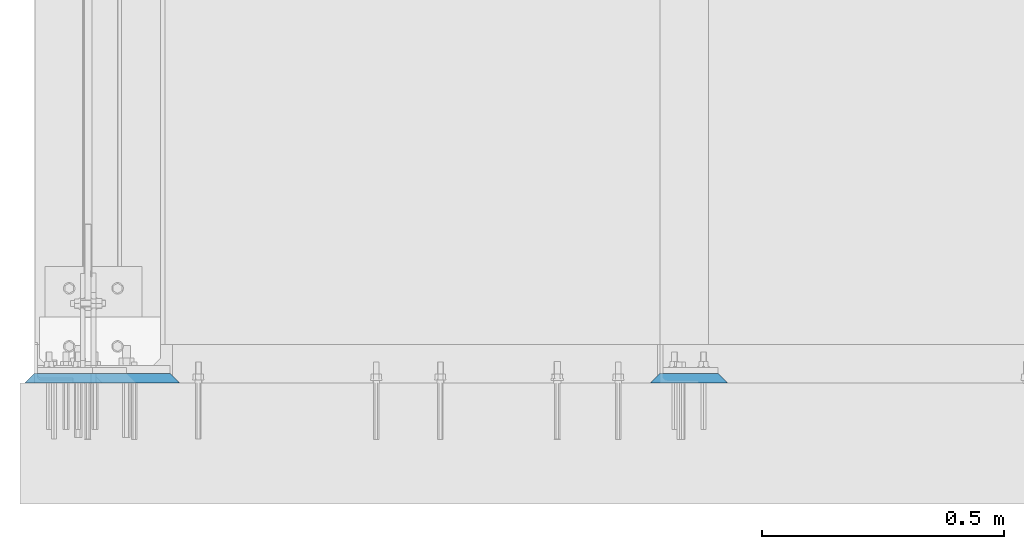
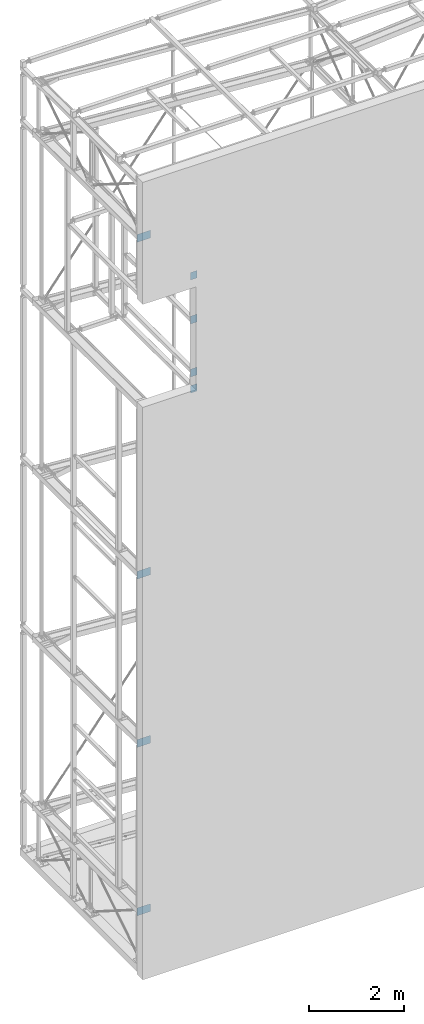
# One storey, part 99 of 271: 8 plates, 8 elements without a shape of their own.
"""IFC2X3 building model written with IfcOpenShell, lengths in millimetres."""

from ifc_helpers import new_model, si_unit, frame, origin_with_axes, place, context, subcontext, project, spatial, polyline, outline, extrude, boolean, material, type_object, element, aggregate, save


model = new_model("IFC2X3")

# Units and contexts
model_context = context("Model", 3, precision=1e-05, world=origin_with_axes())
body_context = subcontext(model_context, "Body", "Model", "MODEL_VIEW")
ifc_project = project(units=[si_unit("LENGTHUNIT", "METRE", prefix="MILLI"), si_unit("AREAUNIT", "SQUARE_METRE"), si_unit("VOLUMEUNIT", "CUBIC_METRE"), si_unit("MASSUNIT", "GRAM", prefix="KILO"), si_unit("TIMEUNIT", "SECOND"), si_unit("PLANEANGLEUNIT", "RADIAN"), si_unit("SOLIDANGLEUNIT", "STERADIAN"), si_unit("THERMODYNAMICTEMPERATUREUNIT", "DEGREE_CELSIUS"), si_unit("LUMINOUSINTENSITYUNIT", "LUMEN")], contexts=[model_context])

# Site, building, storey
site_placement = place(None, origin_with_axes())
site = spatial("IfcSite", under=ifc_project, at=site_placement, Name="Undefined", CompositionType="ELEMENT")
building_placement = place(site_placement, origin_with_axes())
building = spatial("IfcBuilding", under=site, at=building_placement, Name="Undefined", CompositionType="ELEMENT")
storey_placement = place(building_placement, origin_with_axes())
storey = spatial("IfcBuildingStorey", under=building, at=storey_placement, Name="Undefined", CompositionType="ELEMENT", Elevation=0.0)

# Assembly, plate
assembly_1_placement = place(storey_placement, origin_with_axes())
assembly_1 = element("IfcElementAssembly", 1, at=assembly_1_placement, inside=storey, Name="GROUT", AssemblyPlace="NOTDEFINED", PredefinedType="NOTDEFINED")
ifc_material = material(Name="Undefined/GROUT")
plate_type_1 = type_object("IfcPlateType", Name="BL20*160", PredefinedType="NOTDEFINED")
plate_1_placement = place(assembly_1_placement, frame((1420.37568709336, 9.05211980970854, 14411.8499999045), z_axis=(0.0, 1.0, 0.0), x_axis=(0.0, 0.0, -1.0)))
plate_1 = element("IfcPlate", 2, at=plate_1_placement, type_object=plate_type_1, material=ifc_material, Name="GROUT", ObjectType="BL20*160", context=body_context, shape_type="CSG", body=[
    boolean("DIFFERENCE", boolean("DIFFERENCE", boolean("DIFFERENCE", boolean("DIFFERENCE", extrude(outline(polyline([(0.0, 0.0), (190.0, 0.0), (190.0, 160.0), (0.0, 160.0), (0.0, 0.0)])), frame((0.0, 0.0, -10.0), z_axis=(0.0, 0.0, 1.0), x_axis=(1.0, 0.0, 0.0)), (0.0, 0.0, 1.0), 20.0), extrude(outline(polyline([(0.0, 0.0), (44.2842712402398, -1.45519152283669e-11), (22.1421356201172, 22.1421356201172), (0.0, 0.0)])), frame((-5.65685424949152, 168.0, -15.6568542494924), z_axis=(0.0, -1.0, 0.0), x_axis=(0.707106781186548, 0.0, 0.707106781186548)), (0.0, 0.0, 1.0), 176.0)), extrude(outline(polyline([(0.0, 0.0), (42.2842712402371, -1.54614099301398e-11), (21.1421356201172, 21.1421356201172), (0.0, 0.0)])), frame((197.0, 164.949747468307, -14.9497474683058), z_axis=(-1.0, 0.0, 1.38777878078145e-17), x_axis=(0.0, -0.707106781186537, 0.707106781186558)), (0.0, 0.0, 1.0), 204.0)), extrude(outline(polyline([(0.0, 0.0), (40.2842712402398, -1.45519152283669e-11), (20.1421356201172, 20.1421356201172), (0.0, 0.0)])), frame((194.24264068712, -6.0, -14.2426406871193), z_axis=(0.0, 1.0, 0.0), x_axis=(-0.707106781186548, 0.0, 0.707106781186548)), (0.0, 0.0, 1.0), 172.0)), extrude(outline(polyline([(0.0, 0.0), (38.284271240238, -1.45519152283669e-11), (19.1421356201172, 19.1421356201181), (0.0, 0.0)])), frame((-5.0, -3.53553390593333, -13.5355339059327), z_axis=(1.0, 0.0, 0.0), x_axis=(0.0, 0.707106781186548, 0.707106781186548)), (0.0, 0.0, 1.0), 200.0)),
])
aggregate(assembly_1, [plate_1])

assembly_2_placement = place(storey_placement, origin_with_axes())
assembly_2 = element("IfcElementAssembly", 3, at=assembly_2_placement, inside=storey, Name="GROUT", AssemblyPlace="NOTDEFINED", PredefinedType="NOTDEFINED")
plate_2_placement = place(assembly_2_placement, frame((1420.37568709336, 9.05211980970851, 14834.3499999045), z_axis=(0.0, 1.0, 0.0), x_axis=(0.0, 0.0, -1.0)))
plate_2 = element("IfcPlate", 4, at=plate_2_placement, type_object=plate_type_1, material=ifc_material, Name="GROUT", ObjectType="BL20*160", context=body_context, shape_type="CSG", body=[
    boolean("DIFFERENCE", boolean("DIFFERENCE", boolean("DIFFERENCE", boolean("DIFFERENCE", extrude(outline(polyline([(0.0, 0.0), (200.0, 0.0), (200.0, 160.0), (0.0, 160.0), (0.0, 0.0)])), frame((0.0, 0.0, -10.0), z_axis=(0.0, 0.0, 1.0), x_axis=(1.0, 0.0, 0.0)), (0.0, 0.0, 1.0), 20.0), extrude(outline(polyline([(0.0, 0.0), (44.2842712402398, -1.45519152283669e-11), (22.1421356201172, 22.1421356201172), (0.0, 0.0)])), frame((-5.65685424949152, 168.0, -15.6568542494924), z_axis=(0.0, -1.0, 0.0), x_axis=(0.707106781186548, 0.0, 0.707106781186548)), (0.0, 0.0, 1.0), 176.0)), extrude(outline(polyline([(0.0, 0.0), (42.2842712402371, -1.54614099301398e-11), (21.1421356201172, 21.1421356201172), (0.0, 0.0)])), frame((207.0, 164.949747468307, -14.9497474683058), z_axis=(-1.0, 0.0, 1.38777878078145e-17), x_axis=(0.0, -0.707106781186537, 0.707106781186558)), (0.0, 0.0, 1.0), 214.0)), extrude(outline(polyline([(0.0, 0.0), (40.2842712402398, -1.45519152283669e-11), (20.1421356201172, 20.1421356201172), (0.0, 0.0)])), frame((204.24264068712, -6.0, -14.2426406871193), z_axis=(0.0, 1.0, 0.0), x_axis=(-0.707106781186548, 0.0, 0.707106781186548)), (0.0, 0.0, 1.0), 172.0)), extrude(outline(polyline([(0.0, 0.0), (38.284271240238, -1.45519152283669e-11), (19.1421356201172, 19.1421356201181), (0.0, 0.0)])), frame((-5.0, -3.53553390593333, -13.5355339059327), z_axis=(1.0, 0.0, 0.0), x_axis=(0.0, 0.707106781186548, 0.707106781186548)), (0.0, 0.0, 1.0), 210.0)),
])
aggregate(assembly_2, [plate_2])

assembly_3_placement = place(storey_placement, origin_with_axes())
assembly_3 = element("IfcElementAssembly", 5, at=assembly_3_placement, inside=storey, Name="GROUT", AssemblyPlace="NOTDEFINED", PredefinedType="NOTDEFINED")
plate_3_placement = place(assembly_3_placement, frame((1260.37568709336, 9.05211980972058, 15994.3499999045), z_axis=(0.0, 1.0, 0.0), x_axis=(0.0, 0.0, 1.0)))
plate_3 = element("IfcPlate", 6, at=plate_3_placement, type_object=plate_type_1, material=ifc_material, Name="GROUT", ObjectType="BL20*160", context=body_context, shape_type="CSG", body=[
    boolean("DIFFERENCE", boolean("DIFFERENCE", boolean("DIFFERENCE", boolean("DIFFERENCE", extrude(outline(polyline([(0.0, 0.0), (200.0, 0.0), (200.0, 160.0), (0.0, 160.0), (0.0, 0.0)])), frame((0.0, 0.0, -10.0), z_axis=(0.0, 0.0, 1.0), x_axis=(1.0, 0.0, 0.0)), (0.0, 0.0, 1.0), 20.0), extrude(outline(polyline([(0.0, 0.0), (44.2842712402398, -1.45519152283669e-11), (22.1421356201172, 22.1421356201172), (0.0, 0.0)])), frame((-5.65685424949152, 168.0, -15.6568542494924), z_axis=(0.0, -1.0, 0.0), x_axis=(0.707106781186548, 0.0, 0.707106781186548)), (0.0, 0.0, 1.0), 176.0)), extrude(outline(polyline([(0.0, 0.0), (42.2842712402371, -1.54614099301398e-11), (21.1421356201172, 21.1421356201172), (0.0, 0.0)])), frame((207.0, 164.949747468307, -14.9497474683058), z_axis=(-1.0, 0.0, 1.38777878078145e-17), x_axis=(0.0, -0.707106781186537, 0.707106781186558)), (0.0, 0.0, 1.0), 214.0)), extrude(outline(polyline([(0.0, 0.0), (40.2842712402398, -1.45519152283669e-11), (20.1421356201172, 20.1421356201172), (0.0, 0.0)])), frame((204.24264068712, -6.0, -14.2426406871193), z_axis=(0.0, 1.0, 0.0), x_axis=(-0.707106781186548, 0.0, 0.707106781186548)), (0.0, 0.0, 1.0), 172.0)), extrude(outline(polyline([(0.0, 0.0), (38.284271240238, -1.45519152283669e-11), (19.1421356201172, 19.1421356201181), (0.0, 0.0)])), frame((-5.0, -3.53553390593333, -13.5355339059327), z_axis=(1.0, 0.0, 0.0), x_axis=(0.0, 0.707106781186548, 0.707106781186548)), (0.0, 0.0, 1.0), 210.0)),
])
aggregate(assembly_3, [plate_3])

assembly_4_placement = place(storey_placement, origin_with_axes())
assembly_4 = element("IfcElementAssembly", 7, at=assembly_4_placement, inside=storey, Name="GROUT", AssemblyPlace="NOTDEFINED", PredefinedType="NOTDEFINED")
plate_4_placement = place(assembly_4_placement, frame((1260.37568709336, 9.05211980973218, 17124.3499999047), z_axis=(0.0, 1.0, 0.0), x_axis=(0.0, 0.0, 1.0)))
plate_4 = element("IfcPlate", 8, at=plate_4_placement, type_object=plate_type_1, material=ifc_material, Name="GROUT", ObjectType="BL20*160", context=body_context, shape_type="CSG", body=[
    boolean("DIFFERENCE", boolean("DIFFERENCE", boolean("DIFFERENCE", boolean("DIFFERENCE", extrude(outline(polyline([(0.0, 0.0), (190.0, 0.0), (190.0, 160.0), (0.0, 160.0), (0.0, 0.0)])), frame((0.0, 0.0, -10.0), z_axis=(0.0, 0.0, 1.0), x_axis=(1.0, 0.0, 0.0)), (0.0, 0.0, 1.0), 20.0), extrude(outline(polyline([(0.0, 0.0), (44.2842712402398, -1.45519152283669e-11), (22.1421356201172, 22.1421356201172), (0.0, 0.0)])), frame((-5.65685424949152, 168.0, -15.6568542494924), z_axis=(0.0, -1.0, 0.0), x_axis=(0.707106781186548, 0.0, 0.707106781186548)), (0.0, 0.0, 1.0), 176.0)), extrude(outline(polyline([(0.0, 0.0), (42.2842712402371, -1.54614099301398e-11), (21.1421356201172, 21.1421356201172), (0.0, 0.0)])), frame((197.0, 164.949747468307, -14.9497474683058), z_axis=(-1.0, 0.0, 1.38777878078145e-17), x_axis=(0.0, -0.707106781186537, 0.707106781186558)), (0.0, 0.0, 1.0), 204.0)), extrude(outline(polyline([(0.0, 0.0), (40.2842712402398, -1.45519152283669e-11), (20.1421356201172, 20.1421356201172), (0.0, 0.0)])), frame((194.24264068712, -6.0, -14.2426406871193), z_axis=(0.0, 1.0, 0.0), x_axis=(-0.707106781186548, 0.0, 0.707106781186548)), (0.0, 0.0, 1.0), 172.0)), extrude(outline(polyline([(0.0, 0.0), (38.284271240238, -1.45519152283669e-11), (19.1421356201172, 19.1421356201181), (0.0, 0.0)])), frame((-5.0, -3.53553390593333, -13.5355339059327), z_axis=(1.0, 0.0, 0.0), x_axis=(0.0, 0.707106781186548, 0.707106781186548)), (0.0, 0.0, 1.0), 200.0)),
])
aggregate(assembly_4, [plate_4])

assembly_5_placement = place(storey_placement, origin_with_axes())
assembly_5 = element("IfcElementAssembly", 9, at=assembly_5_placement, inside=storey, Name="GROUT", AssemblyPlace="NOTDEFINED", PredefinedType="NOTDEFINED")
plate_type_2 = type_object("IfcPlateType", Name="BL20*200", PredefinedType="NOTDEFINED")
plate_5_placement = place(assembly_5_placement, frame((-31.6243129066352, 9.32498425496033, 1464.34999990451), z_axis=(0.0, 1.0, 0.0), x_axis=(1.0, 0.0, 0.0)))
plate_5 = element("IfcPlate", 10, at=plate_5_placement, type_object=plate_type_2, material=ifc_material, Name="GROUT", ObjectType="BL20*200", context=body_context, shape_type="CSG", body=[
    boolean("DIFFERENCE", boolean("DIFFERENCE", boolean("DIFFERENCE", boolean("DIFFERENCE", extrude(outline(polyline([(0.0, 0.0), (320.0, 0.0), (320.0, 200.0), (0.0, 200.0), (0.0, 0.0)])), frame((0.0, 0.0, -10.0), z_axis=(0.0, 0.0, 1.0), x_axis=(1.0, 0.0, 0.0)), (0.0, 0.0, 1.0), 20.0), extrude(outline(polyline([(0.0, 0.0), (44.2842712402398, -1.45519152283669e-11), (22.1421356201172, 22.1421356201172), (0.0, 0.0)])), frame((-5.65685424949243, 208.0, -15.6568542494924), z_axis=(0.0, -1.0, 0.0), x_axis=(0.707106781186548, 0.0, 0.707106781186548)), (0.0, 0.0, 1.0), 216.0)), extrude(outline(polyline([(0.0, 0.0), (42.2842712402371, -1.54614099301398e-11), (21.1421356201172, 21.1421356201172), (0.0, 0.0)])), frame((327.0, 204.949747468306, -14.9497474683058), z_axis=(-1.0, 0.0, 1.38777878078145e-17), x_axis=(0.0, -0.707106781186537, 0.707106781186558)), (0.0, 0.0, 1.0), 334.0)), extrude(outline(polyline([(0.0, 0.0), (40.2842712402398, -1.45519152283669e-11), (20.1421356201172, 20.1421356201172), (0.0, 0.0)])), frame((324.24264068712, -6.0, -14.2426406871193), z_axis=(0.0, 1.0, 0.0), x_axis=(-0.707106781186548, 0.0, 0.707106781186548)), (0.0, 0.0, 1.0), 212.0)), extrude(outline(polyline([(0.0, 0.0), (38.284271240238, -1.45519152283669e-11), (19.1421356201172, 19.1421356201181), (0.0, 0.0)])), frame((-5.0, -3.53553390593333, -13.5355339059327), z_axis=(1.0, 0.0, 0.0), x_axis=(0.0, 0.707106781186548, 0.707106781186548)), (0.0, 0.0, 1.0), 330.0)),
])
aggregate(assembly_5, [plate_5])

assembly_6_placement = place(storey_placement, origin_with_axes())
assembly_6 = element("IfcElementAssembly", 11, at=assembly_6_placement, inside=storey, Name="GROUT", AssemblyPlace="NOTDEFINED", PredefinedType="NOTDEFINED")
plate_6_placement = place(assembly_6_placement, frame((-31.6243129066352, 9.32498425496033, 5784.34999990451), z_axis=(0.0, 1.0, 0.0), x_axis=(1.0, 0.0, 0.0)))
plate_6 = element("IfcPlate", 12, at=plate_6_placement, type_object=plate_type_2, material=ifc_material, Name="GROUT", ObjectType="BL20*200", context=body_context, shape_type="CSG", body=[
    boolean("DIFFERENCE", boolean("DIFFERENCE", boolean("DIFFERENCE", boolean("DIFFERENCE", extrude(outline(polyline([(0.0, 0.0), (320.0, 0.0), (320.0, 200.0), (0.0, 200.0), (0.0, 0.0)])), frame((0.0, 0.0, -10.0), z_axis=(0.0, 0.0, 1.0), x_axis=(1.0, 0.0, 0.0)), (0.0, 0.0, 1.0), 20.0), extrude(outline(polyline([(0.0, 0.0), (44.2842712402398, -1.45519152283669e-11), (22.1421356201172, 22.1421356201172), (0.0, 0.0)])), frame((-5.65685424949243, 208.0, -15.6568542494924), z_axis=(0.0, -1.0, 0.0), x_axis=(0.707106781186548, 0.0, 0.707106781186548)), (0.0, 0.0, 1.0), 216.0)), extrude(outline(polyline([(0.0, 0.0), (42.2842712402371, -1.54614099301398e-11), (21.1421356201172, 21.1421356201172), (0.0, 0.0)])), frame((327.0, 204.949747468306, -14.9497474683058), z_axis=(-1.0, 0.0, 1.38777878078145e-17), x_axis=(0.0, -0.707106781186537, 0.707106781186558)), (0.0, 0.0, 1.0), 334.0)), extrude(outline(polyline([(0.0, 0.0), (40.2842712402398, -1.45519152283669e-11), (20.1421356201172, 20.1421356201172), (0.0, 0.0)])), frame((324.24264068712, -6.0, -14.2426406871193), z_axis=(0.0, 1.0, 0.0), x_axis=(-0.707106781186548, 0.0, 0.707106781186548)), (0.0, 0.0, 1.0), 212.0)), extrude(outline(polyline([(0.0, 0.0), (38.284271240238, -1.45519152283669e-11), (19.1421356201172, 19.1421356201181), (0.0, 0.0)])), frame((-5.0, -3.53553390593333, -13.5355339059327), z_axis=(1.0, 0.0, 0.0), x_axis=(0.0, 0.707106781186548, 0.707106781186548)), (0.0, 0.0, 1.0), 330.0)),
])
aggregate(assembly_6, [plate_6])

assembly_7_placement = place(storey_placement, origin_with_axes())
assembly_7 = element("IfcElementAssembly", 13, at=assembly_7_placement, inside=storey, Name="GROUT", AssemblyPlace="NOTDEFINED", PredefinedType="NOTDEFINED")
plate_7_placement = place(assembly_7_placement, frame((-31.6243129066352, 9.32498425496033, 10104.3499999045), z_axis=(0.0, 1.0, 0.0), x_axis=(1.0, 0.0, 0.0)))
plate_7 = element("IfcPlate", 14, at=plate_7_placement, type_object=plate_type_2, material=ifc_material, Name="GROUT", ObjectType="BL20*200", context=body_context, shape_type="CSG", body=[
    boolean("DIFFERENCE", boolean("DIFFERENCE", boolean("DIFFERENCE", boolean("DIFFERENCE", extrude(outline(polyline([(0.0, 0.0), (320.0, 0.0), (320.0, 200.0), (0.0, 200.0), (0.0, 0.0)])), frame((0.0, 0.0, -10.0), z_axis=(0.0, 0.0, 1.0), x_axis=(1.0, 0.0, 0.0)), (0.0, 0.0, 1.0), 20.0), extrude(outline(polyline([(0.0, 0.0), (44.2842712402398, -1.45519152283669e-11), (22.1421356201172, 22.1421356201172), (0.0, 0.0)])), frame((-5.65685424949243, 208.0, -15.6568542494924), z_axis=(0.0, -1.0, 0.0), x_axis=(0.707106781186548, 0.0, 0.707106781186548)), (0.0, 0.0, 1.0), 216.0)), extrude(outline(polyline([(0.0, 0.0), (42.2842712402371, -1.54614099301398e-11), (21.1421356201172, 21.1421356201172), (0.0, 0.0)])), frame((327.0, 204.949747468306, -14.9497474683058), z_axis=(-1.0, 0.0, 1.38777878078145e-17), x_axis=(0.0, -0.707106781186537, 0.707106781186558)), (0.0, 0.0, 1.0), 334.0)), extrude(outline(polyline([(0.0, 0.0), (40.2842712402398, -1.45519152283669e-11), (20.1421356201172, 20.1421356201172), (0.0, 0.0)])), frame((324.24264068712, -6.0, -14.2426406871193), z_axis=(0.0, 1.0, 0.0), x_axis=(-0.707106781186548, 0.0, 0.707106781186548)), (0.0, 0.0, 1.0), 212.0)), extrude(outline(polyline([(0.0, 0.0), (38.284271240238, -1.45519152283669e-11), (19.1421356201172, 19.1421356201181), (0.0, 0.0)])), frame((-5.0, -3.53553390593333, -13.5355339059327), z_axis=(1.0, 0.0, 0.0), x_axis=(0.0, 0.707106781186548, 0.707106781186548)), (0.0, 0.0, 1.0), 330.0)),
])
aggregate(assembly_7, [plate_7])

assembly_8_placement = place(storey_placement, origin_with_axes())
assembly_8 = element("IfcElementAssembly", 15, at=assembly_8_placement, inside=storey, Name="GROUT", AssemblyPlace="NOTDEFINED", PredefinedType="NOTDEFINED")
plate_8_placement = place(assembly_8_placement, frame((-31.6243129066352, 9.32498425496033, 18744.3499999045), z_axis=(0.0, 1.0, 0.0), x_axis=(1.0, 0.0, 0.0)))
plate_8 = element("IfcPlate", 16, at=plate_8_placement, type_object=plate_type_2, material=ifc_material, Name="GROUT", ObjectType="BL20*200", context=body_context, shape_type="CSG", body=[
    boolean("DIFFERENCE", boolean("DIFFERENCE", boolean("DIFFERENCE", boolean("DIFFERENCE", extrude(outline(polyline([(0.0, 0.0), (320.0, 0.0), (320.0, 200.0), (0.0, 200.0), (0.0, 0.0)])), frame((0.0, 0.0, -10.0), z_axis=(0.0, 0.0, 1.0), x_axis=(1.0, 0.0, 0.0)), (0.0, 0.0, 1.0), 20.0), extrude(outline(polyline([(0.0, 0.0), (44.2842712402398, -1.45519152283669e-11), (22.1421356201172, 22.1421356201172), (0.0, 0.0)])), frame((-5.65685424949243, 208.0, -15.6568542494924), z_axis=(0.0, -1.0, 0.0), x_axis=(0.707106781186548, 0.0, 0.707106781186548)), (0.0, 0.0, 1.0), 216.0)), extrude(outline(polyline([(0.0, 0.0), (42.2842712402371, -1.54614099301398e-11), (21.1421356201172, 21.1421356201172), (0.0, 0.0)])), frame((327.0, 204.949747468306, -14.9497474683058), z_axis=(-1.0, 0.0, 1.38777878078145e-17), x_axis=(0.0, -0.707106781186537, 0.707106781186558)), (0.0, 0.0, 1.0), 334.0)), extrude(outline(polyline([(0.0, 0.0), (40.2842712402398, -1.45519152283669e-11), (20.1421356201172, 20.1421356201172), (0.0, 0.0)])), frame((324.24264068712, -6.0, -14.2426406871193), z_axis=(0.0, 1.0, 0.0), x_axis=(-0.707106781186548, 0.0, 0.707106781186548)), (0.0, 0.0, 1.0), 212.0)), extrude(outline(polyline([(0.0, 0.0), (38.284271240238, -1.45519152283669e-11), (19.1421356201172, 19.1421356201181), (0.0, 0.0)])), frame((-5.0, -3.53553390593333, -13.5355339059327), z_axis=(1.0, 0.0, 0.0), x_axis=(0.0, 0.707106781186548, 0.707106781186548)), (0.0, 0.0, 1.0), 330.0)),
])
aggregate(assembly_8, [plate_8])

save(model, "model.ifc")
